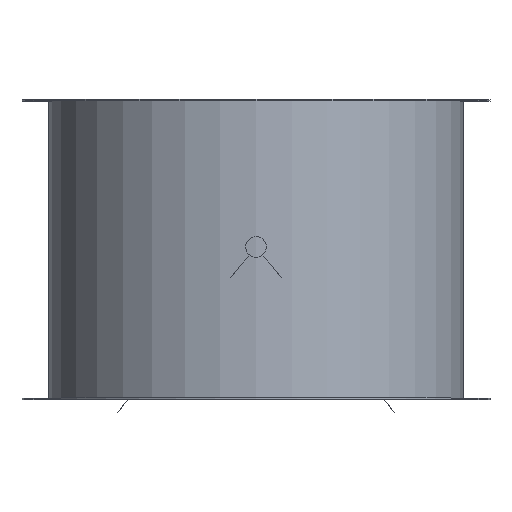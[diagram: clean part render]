
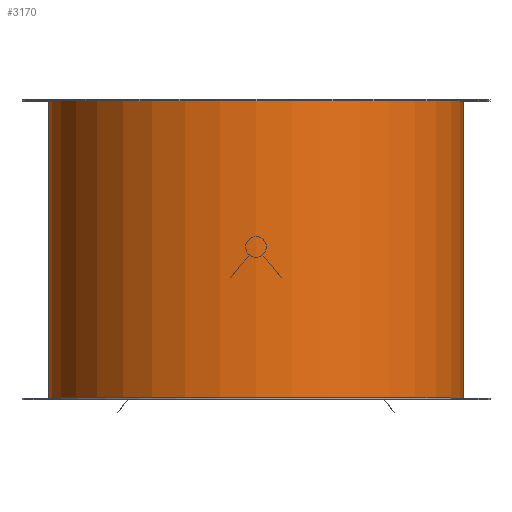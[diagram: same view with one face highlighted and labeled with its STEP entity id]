
A CAD part, top view. The second image highlights one B-rep face of the part: STEP entity #3170.
In plain terms, the highlighted cylindrical face has radius 228.5 mm (diameter 457 mm), a full revolution.
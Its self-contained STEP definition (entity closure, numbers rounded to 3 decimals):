
#106=CYLINDRICAL_SURFACE('',#3422,228.5);
#175=CIRCLE('',#3423,228.5);
#176=CIRCLE('',#3424,228.5);
#340=FACE_OUTER_BOUND('',#492,.T.);
#492=EDGE_LOOP('',(#2829,#2830,#2831,#2832));
#906=LINE('',#5220,#1264);
#1264=VECTOR('',#4246,227.);
#1541=VERTEX_POINT('',#5217);
#1542=VERTEX_POINT('',#5219);
#1992=EDGE_CURVE('',#1541,#1541,#175,.T.);
#1993=EDGE_CURVE('',#1541,#1542,#906,.T.);
#1994=EDGE_CURVE('',#1542,#1542,#176,.F.);
#2829=ORIENTED_EDGE('',*,*,#1992,.T.);
#2830=ORIENTED_EDGE('',*,*,#1993,.T.);
#2831=ORIENTED_EDGE('',*,*,#1994,.T.);
#2832=ORIENTED_EDGE('',*,*,#1993,.F.);
#3170=ADVANCED_FACE('',(#340),#106,.T.);
#3422=AXIS2_PLACEMENT_3D('',#5216,#4242,#4243);
#3423=AXIS2_PLACEMENT_3D('',#5218,#4244,#4245);
#3424=AXIS2_PLACEMENT_3D('',#5221,#4247,#4248);
#4242=DIRECTION('center_axis',(0.,1.,0.));
#4243=DIRECTION('ref_axis',(1.,0.,0.));
#4244=DIRECTION('center_axis',(0.,-1.,0.));
#4245=DIRECTION('ref_axis',(1.,0.,0.));
#4246=DIRECTION('',(0.,-1.,0.));
#4247=DIRECTION('center_axis',(0.,-1.,0.));
#4248=DIRECTION('ref_axis',(1.,0.,0.));
#5216=CARTESIAN_POINT('Origin',(0.,0.,0.));
#5217=CARTESIAN_POINT('',(-228.5,163.5,0.));
#5218=CARTESIAN_POINT('Origin',(0.,163.5,0.));
#5219=CARTESIAN_POINT('',(-228.5,-163.5,0.));
#5220=CARTESIAN_POINT('',(-228.5,0.,0.));
#5221=CARTESIAN_POINT('Origin',(0.,-163.5,0.));
